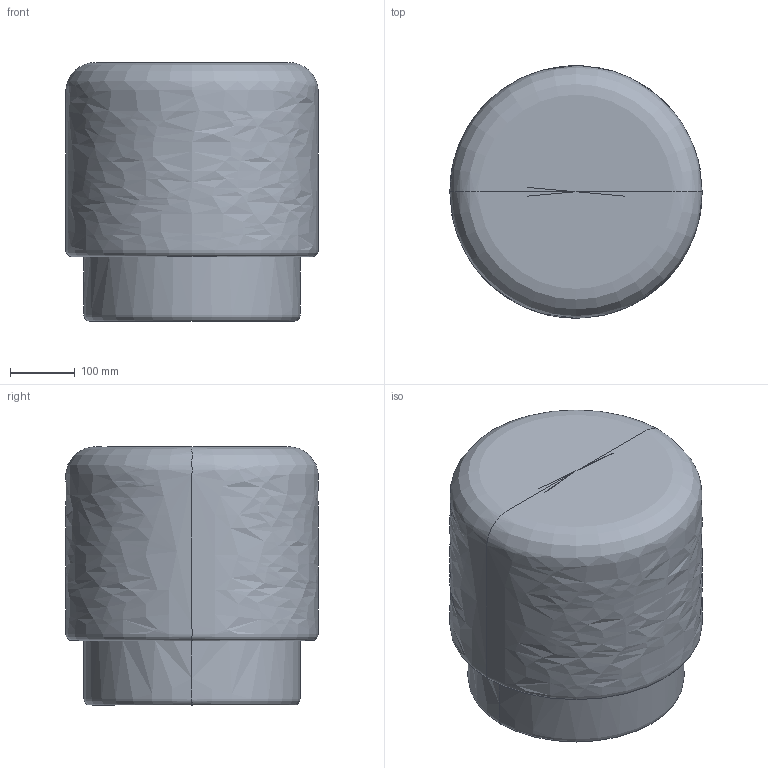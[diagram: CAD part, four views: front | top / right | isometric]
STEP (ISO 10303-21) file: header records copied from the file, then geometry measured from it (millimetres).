
FILE_DESCRIPTION(/* description */ (''),/* implementation_level */ '2;1');
FILE_NAME(/* name */ 'POUF_Mario collection_Design Alain Gilles',/* time_stamp */ '2023-12-22T18:09:08+01:00',/* author */ (''),/* organization */ (''),/* preprocessor_version */ 'ST-DEVELOPER v19.2',/* originating_system */ 'Rhino 8.1',/* authorisation */ '');
FILE_SCHEMA (('CONFIG_CONTROL_DESIGN'));
Length unit declared in the file: millimetre
Products named in the file (1): Document
Bounding box: 390 x 390 x 400 mm (x, y, z)
Volume: 34949625.3 mm3; surface area: 762385.5 mm2
Topology: 1 solids, 2 shells, 4 faces, 12 edges, 5 vertices
Faces by surface type: bspline 4
Entity records: 372 total; most frequent: CARTESIAN_POINT 230, ORIENTED_EDGE 10, DIRECTION 10, ORGANIZATION 7, PERSON_AND_ORGANIZATION 7, EDGE_CURVE 6, VERTEX_POINT 5, LOCAL_TIME 5
